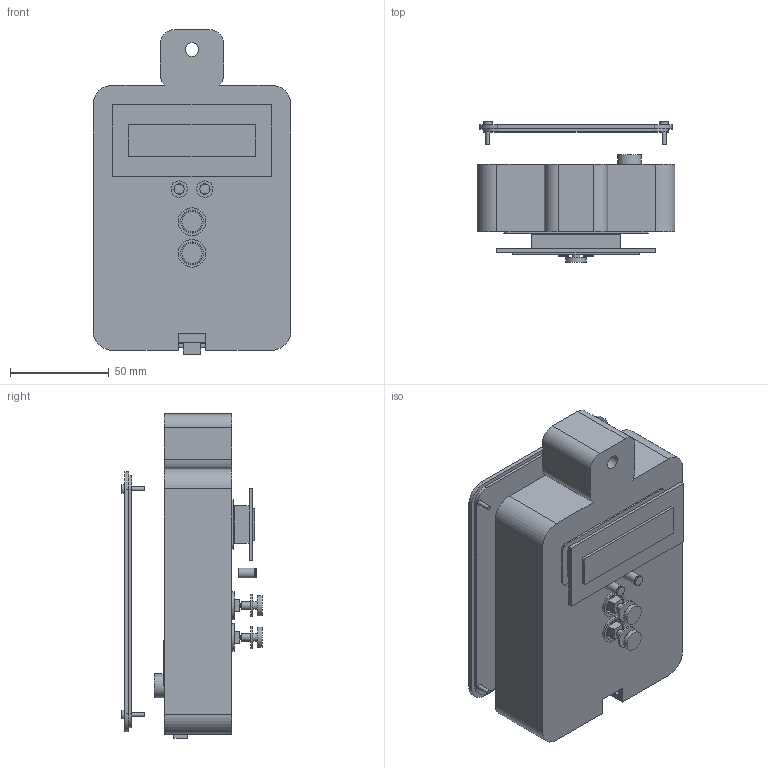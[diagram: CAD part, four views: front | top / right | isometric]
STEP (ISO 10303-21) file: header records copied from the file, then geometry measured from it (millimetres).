
FILE_DESCRIPTION(('Open CASCADE Model'),'2;1');
FILE_NAME('AETHER KEYNODE V1 - exploded assembly','2026-10-12T13:28:44', ('Author'),('Open CASCADE'),'Open CASCADE STEP processor 7.9', 'build123d','Unknown');
FILE_SCHEMA(('AUTOMOTIVE_DESIGN { 1 0 10303 214 1 1 1 1 }'));
Length unit declared in the file: millimetre
Products named in the file (57): AETHER KEYNODE V1 - exploded assembly; Housing - front shell; Front modules exploded outward; Round actuator - high priority (exploded); Round actuator - low / acknowledge (exploded); 16x2 LCD PCB envelope 80x36 (exploded); LCD visible area 64x16 (exploded); I2C backpack envelope (exploded); Green status LED 5mm (exploded); Red alert LED 5mm (exploded); 6x6 tactile switch 1 envelope (exploded); 6x6 tactile switch 2 envelope (exploded); LED current-limit resistor 1 (220-330 ohm) (exploded); LED current-limit resistor 2 (220-330 ohm) (exploded); Controller and buzzer exploded rearward; ESP32 DevKit V1 PCB envelope 52x28 (exploded); ESP32 module envelope (exploded); USB connector envelope - confirm variant (exploded); ESP32 header pin 01 (exploded); ESP32 header pin 02 (exploded); ESP32 header pin 03 (exploded); ESP32 header pin 04 (exploded); ESP32 header pin 05 (exploded); ESP32 header pin 06 (exploded); ESP32 header pin 07 (exploded); ESP32 header pin 08 (exploded); ESP32 header pin 09 (exploded); ESP32 header pin 10 (exploded); ESP32 header pin 11 (exploded); ESP32 header pin 12 (exploded); ESP32 header pin 13 (exploded); ESP32 header pin 14 (exploded); ESP32 header pin 15 (exploded); ESP32 header pin 16 (exploded); ESP32 header pin 17 (exploded); ESP32 header pin 18 (exploded); ESP32 header pin 19 (exploded); ESP32 header pin 20 (exploded); ESP32 header pin 21 (exploded); ESP32 header pin 22 (exploded)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
Assembly tree (56 placements, depth 3):
  AETHER KEYNODE V1 - exploded assembly
    Housing - front shell
    Front modules exploded outward
      Round actuator - high priority (exploded)
      Round actuator - low / acknowledge (exploded)
      16x2 LCD PCB envelope 80x36 (exploded)
      LCD visible area 64x16 (exploded)
      I2C backpack envelope (exploded)
      Green status LED 5mm (exploded)
      Red alert LED 5mm (exploded)
      6x6 tactile switch 1 envelope (exploded)
      6x6 tactile switch 2 envelope (exploded)
      LED current-limit resistor 1 (220-330 ohm) (exploded)
      LED current-limit resistor 2 (220-330 ohm) (exploded)
    Controller and buzzer exploded rearward
      ESP32 DevKit V1 PCB envelope 52x28 (exploded)
      ESP32 module envelope (exploded)
      USB connector envelope - confirm variant (exploded)
      ESP32 header pin 01 (exploded)
      ESP32 header pin 02 (exploded)
      ESP32 header pin 03 (exploded)
      ESP32 header pin 04 (exploded)
      ESP32 header pin 05 (exploded)
      ESP32 header pin 06 (exploded)
      ESP32 header pin 07 (exploded)
      ESP32 header pin 08 (exploded)
      ESP32 header pin 09 (exploded)
      ESP32 header pin 10 (exploded)
      ESP32 header pin 11 (exploded)
      ESP32 header pin 12 (exploded)
      ESP32 header pin 13 (exploded)
      ESP32 header pin 14 (exploded)
      ESP32 header pin 15 (exploded)
      ESP32 header pin 16 (exploded)
      ESP32 header pin 17 (exploded)
      ESP32 header pin 18 (exploded)
      ESP32 header pin 19 (exploded)
      ESP32 header pin 20 (exploded)
      ESP32 header pin 21 (exploded)
      ESP32 header pin 22 (exploded)
      ESP32 header pin 23 (exploded)
      ESP32 header pin 24 (exploded)
      ESP32 header pin 25 (exploded)
      ESP32 header pin 26 (exploded)
      ESP32 header pin 27 (exploded)
      ESP32 header pin 28 (exploded)
      ESP32 header pin 29 (exploded)
      ESP32 header pin 30 (exploded)
      Two-pin active buzzer 12x7 envelope (exploded)
      Buzzer pin 1 (exploded)
      Buzzer pin 2 (exploded)
    Cover and fasteners exploded rearward
      Rear cover - removable (exploded)
      Rear cover screw 1 (generic) (exploded)
      Rear cover screw 2 (generic) (exploded)
      Rear cover screw 3 (generic) (exploded)
      Rear cover screw 4 (generic) (exploded)
Bounding box: 100 x 70.9 x 164 mm (x, y, z)
Volume: 167123.6 mm3; surface area: 112120.1 mm2
Topology: 57 solids, 57 shells, 510 faces, 1082 edges, 720 vertices
Faces by surface type: plane 408, cylinder 102
Full cylindrical faces by diameter (mm): 0.6 x4, 1.8 x9, 2 x4, 2.1 x4, 2.5 x2, 2.9 x4, 3.5 x4, 3.8 x4, 4.4 x4, 5 x4, 5.2 x2, 7 x1, 8.2 x2, 10.2 x2, 10.8 x2, 11.4 x2, 11.6 x2, 12 x1, 12.4 x2, 14 x2, 14.4 x1
Entity records: 29555 total; most frequent: CARTESIAN_POINT 4977, DIRECTION 4397, LINE 2664, VECTOR 2664, ORIENTED_EDGE 2164, PCURVE 2164, DEFINITIONAL_REPRESENTATION 2164, EDGE_CURVE 1082
